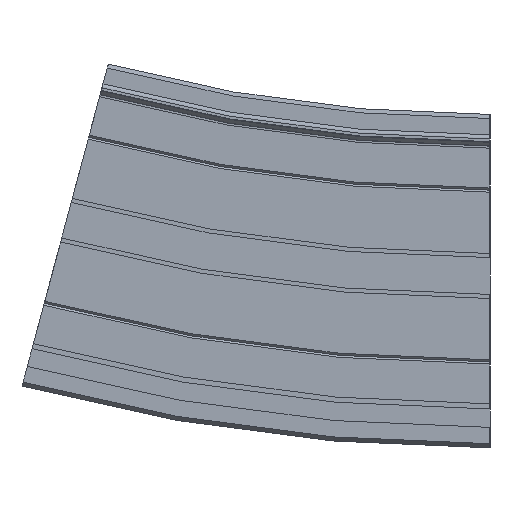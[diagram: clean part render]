
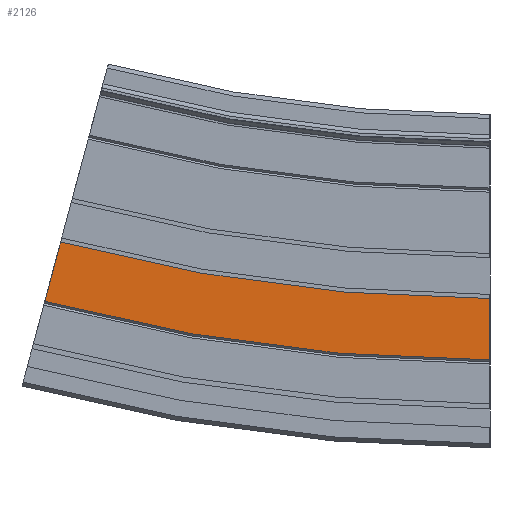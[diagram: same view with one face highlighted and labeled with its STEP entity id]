
A CAD part, left-side view. The second image highlights one B-rep face of the part: STEP entity #2126.
In plain terms, the highlighted planar face has unit normal (-1, 0, 0).
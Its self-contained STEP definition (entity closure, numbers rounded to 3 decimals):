
#214=CIRCLE('',#2314,405.5);
#215=CIRCLE('',#2316,420.5);
#325=FACE_OUTER_BOUND('',#443,.T.);
#443=EDGE_LOOP('',(#1725,#1726,#1727,#1728));
#593=LINE('',#8168,#771);
#594=LINE('',#8170,#772);
#771=VECTOR('',#2772,10.);
#772=VECTOR('',#2773,10.);
#983=VERTEX_POINT('',#8161);
#984=VERTEX_POINT('',#8163);
#985=VERTEX_POINT('',#8167);
#986=VERTEX_POINT('',#8169);
#1271=EDGE_CURVE('',#983,#984,#214,.T.);
#1272=EDGE_CURVE('',#985,#983,#593,.T.);
#1273=EDGE_CURVE('',#986,#984,#594,.T.);
#1274=EDGE_CURVE('',#985,#986,#215,.T.);
#1725=ORIENTED_EDGE('',*,*,#1272,.T.);
#1726=ORIENTED_EDGE('',*,*,#1271,.T.);
#1727=ORIENTED_EDGE('',*,*,#1273,.F.);
#1728=ORIENTED_EDGE('',*,*,#1274,.F.);
#2030=PLANE('',#2315);
#2126=ADVANCED_FACE('',(#325),#2030,.T.);
#2314=AXIS2_PLACEMENT_3D('',#8165,#2768,#2769);
#2315=AXIS2_PLACEMENT_3D('',#8166,#2770,#2771);
#2316=AXIS2_PLACEMENT_3D('',#8171,#2774,#2775);
#2768=DIRECTION('center_axis',(1.,0.,0.));
#2769=DIRECTION('ref_axis',(0.,0.,
-1.));
#2770=DIRECTION('center_axis',(-1.,0.,0.));
#2771=DIRECTION('ref_axis',(0.,0.,1.));
#2772=DIRECTION('',(0.,0.,1.));
#2773=DIRECTION('',(0.,-0.259,0.966));
#2774=DIRECTION('center_axis',(1.,0.,0.));
#2775=DIRECTION('ref_axis',(0.,0.,-1.));
#8161=CARTESIAN_POINT('',(-112.,0.,-5.5));
#8163=CARTESIAN_POINT('',(-112.,104.951,8.317));
#8165=CARTESIAN_POINT('Origin',(-112.,0.,
400.));
#8166=CARTESIAN_POINT('Origin',(-112.,0.,-20.5));
#8167=CARTESIAN_POINT('',(-112.,0.,-20.5));
#8168=CARTESIAN_POINT('',(-112.,0.,-20.5));
#8169=CARTESIAN_POINT('',(-112.,108.833,-6.171));
#8170=CARTESIAN_POINT('',(-112.,108.833,-6.171));
#8171=CARTESIAN_POINT('Origin',(-112.,0.,
400.));
